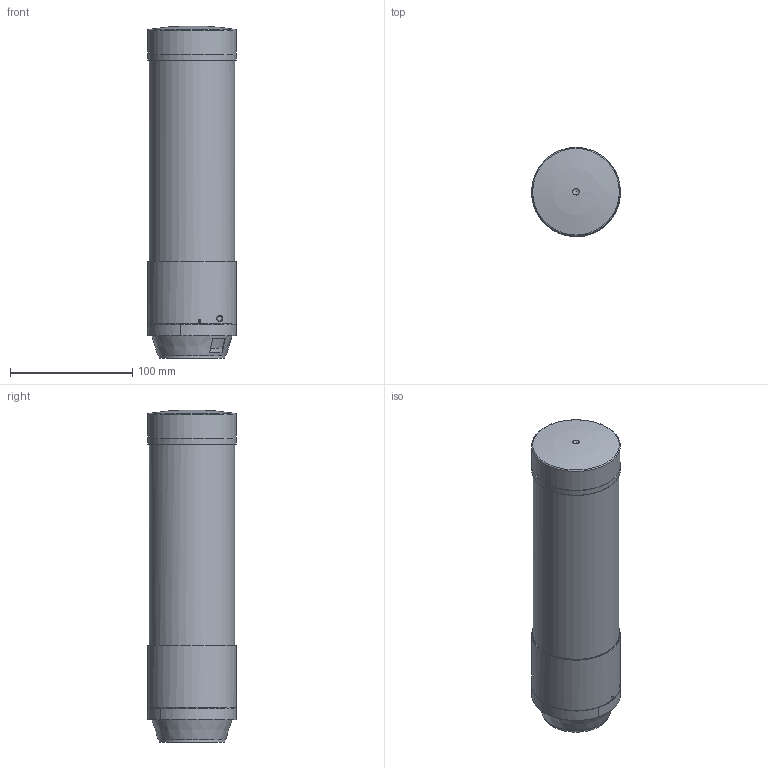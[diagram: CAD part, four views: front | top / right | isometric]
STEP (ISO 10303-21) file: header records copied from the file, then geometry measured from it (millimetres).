
FILE_DESCRIPTION(/* description */ ('Customer-3D'),/* implementation_level */ '2;1');
FILE_NAME(/* name */ 'C:\CEWorkDir\0050569C0EFC1EDCBDDBA3527F3020C5\in\100000012168_prt_000.step',/* time_stamp */ '2022-06-28T14:26:04+02:00',/* author */ ('JENNERT'),/* organization */ ('WERMA Signaltechnik GmbH+Co.KG'),/* preprocessor_version */ 'ST-DEVELOPER v17',/* originating_system */ 'Autodesk Inventor 2018',/* authorisation */ 'public');
FILE_SCHEMA (('AUTOMOTIVE_DESIGN { 1 0 10303 214 3 1 1 }'));
Length unit declared in the file: millimetre
Products named in the file (1): 100000012168_prt_000_1
Bounding box: 72.5 x 72.5 x 271.18 mm (x, y, z)
Volume: 1030501.9 mm3; surface area: 71073.4 mm2
Topology: 1 solids, 1 shells, 227 faces, 604 edges, 405 vertices
Faces by surface type: plane 107, cylinder 76, cone 17, bspline 11, sphere 10, torus 6
Full cylindrical faces by diameter (mm): 0.8 x8, 6 x2, 10.058 x1, 17.5 x1, 54 x1, 70 x1, 71.394 x1, 72.5 x2
Entity records: 8426 total; most frequent: CARTESIAN_POINT 2431, DIRECTION 1200, ORIENTED_EDGE 1194, EDGE_CURVE 597, AXIS2_PLACEMENT_3D 474, VERTEX_POINT 407, EDGE_LOOP 268, LINE 252
